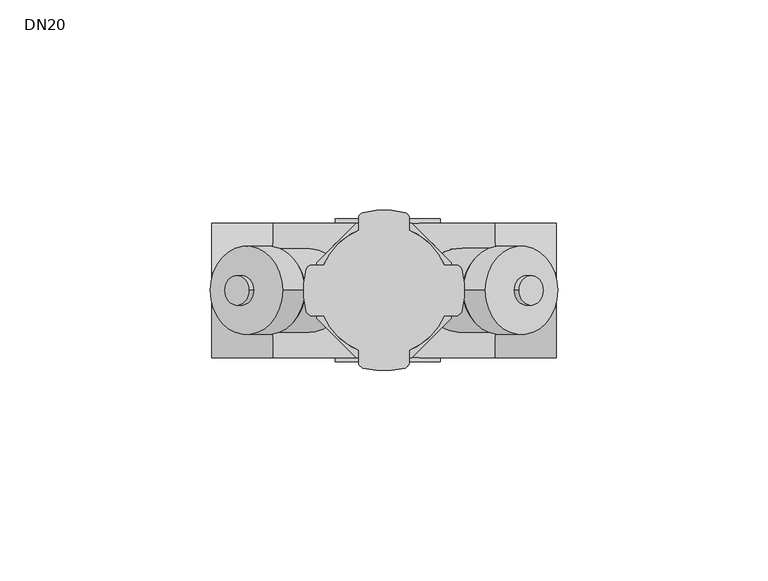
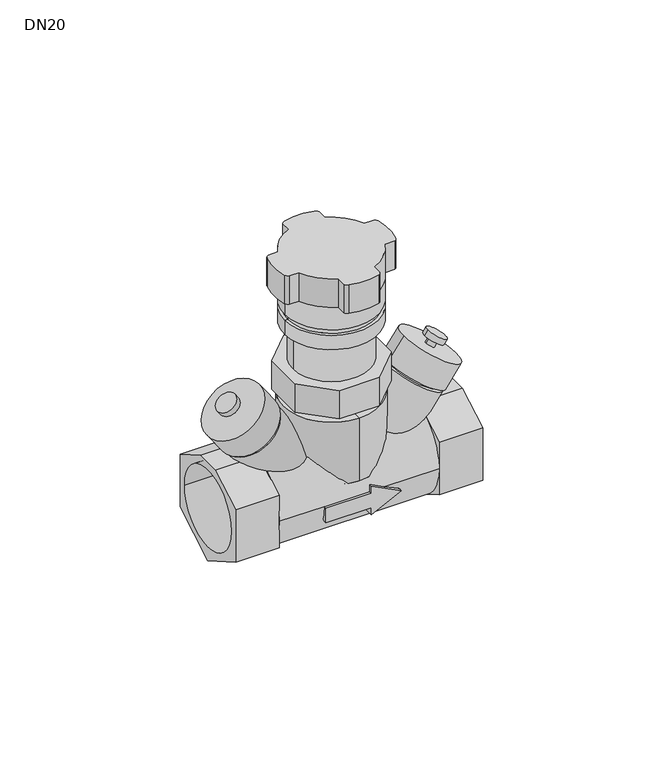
"""IFC4 building model written with IfcOpenShell, lengths in millimetres: valve geometry, 400_56_KOMF_VTZ : DN20."""

from ifc_helpers import new_model, si_unit, point, frame, frame_2d, origin, place, context, project, spatial, polyline, circle_curve, ellipse_curve, trimmed, segment, composite_curve, outline, extrude, source, transform, mapped, element, save
from ifc_brep_helpers import plane_surface, cylinder_surface, revolved_surface, advanced_brep


def dn20_e75ad47f(model_context):
    return source(origin(), model_context, "Body", "SolidModel", [
        advanced_brep(
        [(35.1614142, 0.0, 19.7961177), (18.7784319, 0.0, 31.2676054), (20.4167774, 0.0, 30.1204236), (33.5230687, 0.0, 20.9432996), (23.8246716, 0.0, 3.6055715), (7.4416893, 0.0, 15.0770591), (34.0966531, 0.0, 21.7624631), (20.9903618, 0.0, 30.9395871), (41.3067448, 0.0, 27.7008828), (24.1046544, 0.0, 39.7459162), (31.4768006, 0.0, 34.5838838), (33.9345986, 0.0, 32.8629152), (36.1445527, 0.0, 20.3285084), (18.9424623, 0.0, 32.3735418), (35.0817629, 0.0, 34.5012356), (32.623965, 0.0, 36.2222043), (37.867019, 0.0, 34.9924917), (32.132981, 0.0, 39.0075083), (36.719883, 0.0, 33.3542116), (30.985845, 0.0, 37.3692283)],
        [
            (0, 1, circle_curve(frame((26.969923, 0.0, 25.5318616), z_axis=(0.5735764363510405, 0.0, 0.8191520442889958), x_axis=(-0.8191520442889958, 0.0, 0.5735764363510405)), 9.9999642)),
            (1, 0, circle_curve(frame((26.969923, 0.0, 25.5318616), z_axis=(0.5735764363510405, 0.0, 0.8191520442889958), x_axis=(-0.8191520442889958, 0.0, 0.5735764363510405)), 9.9999642)),
            (2, 3, circle_curve(frame((26.969923, 0.0, 25.5318616), z_axis=(-0.5735764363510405, 0.0, -0.8191520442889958), x_axis=(-0.8191520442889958, 0.0, 0.5735764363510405)), 7.9999137)),
            (3, 2, circle_curve(frame((26.969923, 0.0, 25.5318616), z_axis=(-0.5735764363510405, 0.0, -0.8191520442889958), x_axis=(-0.8191520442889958, 0.0, 0.5735764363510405)), 7.9999137)),
            (4, 5, circle_curve(frame((15.6331805, 0.0, 9.3413153), z_axis=(-0.5735764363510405, 0.0, -0.8191520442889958), x_axis=(-0.8191520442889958, 0.0, 0.5735764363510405)), 9.9999642)),
            (5, 4, circle_curve(frame((15.6331805, 0.0, 9.3413153), z_axis=(-0.5735764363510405, 0.0, -0.8191520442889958), x_axis=(-0.8191520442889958, 0.0, 0.5735764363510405)), 9.9999642)),
            (1, 5),
            (4, 0),
            (6, 7, circle_curve(frame((27.5435075, 0.0, 26.3510251), z_axis=(-0.5735764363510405, 0.0, -0.8191520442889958), x_axis=(-0.8191520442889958, 0.0, 0.5735764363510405)), 7.9999137)),
            (7, 2),
            (3, 6),
            (7, 6, circle_curve(frame((27.5435075, 0.0, 26.3510251), z_axis=(-0.5735764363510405, 0.0, -0.8191520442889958), x_axis=(-0.8191520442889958, 0.0, 0.5735764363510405)), 7.9999137)),
            (8, 9, circle_curve(frame((32.7056996, 0.0, 33.7233995), z_axis=(0.5735764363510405, 0.0, 0.8191520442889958), x_axis=(-0.8191520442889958, 0.0, 0.5735764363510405)), 10.4999374)),
            (9, 8, circle_curve(frame((32.7056996, 0.0, 33.7233995), z_axis=(0.5735764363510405, 0.0, 0.8191520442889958), x_axis=(-0.8191520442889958, 0.0, 0.5735764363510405)), 10.4999374)),
            (10, 11, circle_curve(frame((32.7056996, 0.0, 33.7233995), z_axis=(-0.5735764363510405, 0.0, -0.8191520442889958), x_axis=(-0.8191520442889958, 0.0, 0.5735764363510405)), 1.5002086)),
            (11, 10, circle_curve(frame((32.7056996, 0.0, 33.7233995), z_axis=(-0.5735764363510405, 0.0, -0.8191520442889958), x_axis=(-0.8191520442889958, 0.0, 0.5735764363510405)), 1.5002086)),
            (12, 13, circle_curve(frame((27.5435075, 0.0, 26.3510251), z_axis=(-0.5735764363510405, 0.0, -0.8191520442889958), x_axis=(-0.8191520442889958, 0.0, 0.5735764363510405)), 10.4999374)),
            (13, 12, circle_curve(frame((27.5435075, 0.0, 26.3510251), z_axis=(-0.5735764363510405, 0.0, -0.8191520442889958), x_axis=(-0.8191520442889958, 0.0, 0.5735764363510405)), 10.4999374)),
            (9, 13),
            (12, 8),
            (14, 15, circle_curve(frame((33.852864, 0.0, 35.3617199), z_axis=(-0.5735764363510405, 0.0, -0.8191520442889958), x_axis=(-0.8191520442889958, 0.0, 0.5735764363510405)), 1.5002086)),
            (15, 10),
            (11, 14),
            (15, 14, circle_curve(frame((33.852864, 0.0, 35.3617199), z_axis=(-0.5735764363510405, 0.0, -0.8191520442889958), x_axis=(-0.8191520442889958, 0.0, 0.5735764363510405)), 1.5002086)),
            (16, 17, circle_curve(frame((35.0, 0.0, 37.0), z_axis=(0.5735764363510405, 0.0, 0.8191520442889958), x_axis=(-0.8191520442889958, 0.0, 0.5735764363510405)), 3.4999839)),
            (17, 16, circle_curve(frame((35.0, 0.0, 37.0), z_axis=(0.5735764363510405, 0.0, 0.8191520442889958), x_axis=(-0.8191520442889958, 0.0, 0.5735764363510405)), 3.4999839)),
            (18, 19, circle_curve(frame((33.852864, 0.0, 35.3617199), z_axis=(-0.5735764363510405, 0.0, -0.8191520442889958), x_axis=(-0.8191520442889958, 0.0, 0.5735764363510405)), 3.4999839)),
            (19, 18, circle_curve(frame((33.852864, 0.0, 35.3617199), z_axis=(-0.5735764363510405, 0.0, -0.8191520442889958), x_axis=(-0.8191520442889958, 0.0, 0.5735764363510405)), 3.4999839)),
            (17, 19),
            (18, 16),
        ],
        [
            plane_surface(frame((18.7784319, 0.0, 31.2676054), z_axis=(0.5735764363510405, 0.0, 0.8191520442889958), x_axis=(0.0, 1.0, 0.0))),
            plane_surface(frame((7.4416893, 0.0, 15.0770591), z_axis=(-0.5735764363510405, 0.0, -0.8191520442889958), x_axis=(0.0, -1.0, 0.0))),
            cylinder_surface(frame((15.6331805, 0.0, 9.3413153), z_axis=(0.5735764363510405, 0.0, 0.8191520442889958), x_axis=(-0.8191520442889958, 0.0, 0.5735764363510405)), 9.9999642),
            cylinder_surface(frame((18.939734, 0.0, 14.0635631), z_axis=(0.5735764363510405, 0.0, 0.8191520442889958), x_axis=(-0.8191520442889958, 0.0, 0.5735764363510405)), 7.9999137),
            plane_surface(frame((24.1046544, 0.0, 39.7459162), z_axis=(0.5735764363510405, 0.0, 0.8191520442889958), x_axis=(0.0, 1.0, 0.0))),
            plane_surface(frame((18.9424623, 0.0, 32.3735418), z_axis=(-0.5735764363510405, 0.0, -0.8191520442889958), x_axis=(0.0, -1.0, 0.0))),
            cylinder_surface(frame((27.5435075, 0.0, 26.3510251), z_axis=(0.5735764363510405, 0.0, 0.8191520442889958), x_axis=(-0.8191520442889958, 0.0, 0.5735764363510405)), 10.4999374),
            cylinder_surface(frame((32.7056996, 0.0, 33.7233995), z_axis=(0.5735764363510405, 0.0, 0.8191520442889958), x_axis=(-0.8191520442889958, 0.0, 0.5735764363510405)), 1.5002086),
            plane_surface(frame((32.132981, 0.0, 39.0075083), z_axis=(0.5735764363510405, 0.0, 0.8191520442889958), x_axis=(0.0, 1.0, 0.0))),
            plane_surface(frame((30.985845, 0.0, 37.3692283), z_axis=(-0.5735764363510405, 0.0, -0.8191520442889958), x_axis=(0.0, -1.0, 0.0))),
            cylinder_surface(frame((33.852864, 0.0, 35.3617199), z_axis=(0.5735764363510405, 0.0, 0.8191520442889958), x_axis=(-0.8191520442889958, 0.0, 0.5735764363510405)), 3.4999839),
        ],
        [
            (0, [[1, 2], [3, 4]]),
            (1, [[5, 6]]),
            (2, [[7, -5, 8, -2]]),
            (2, [[-8, -6, -7, -1]]),
            (3, [[9, 10, -4, 11]]),
            (3, [[-3, -10, 12, -11]]),
            (4, [[13, 14], [15, 16]]),
            (5, [[17, 18], [-12, -9]]),
            (6, [[19, -17, 20, -14]]),
            (6, [[-20, -18, -19, -13]]),
            (7, [[21, 22, -16, 23]]),
            (7, [[-15, -22, 24, -23]]),
            (8, [[25, 26]]),
            (9, [[27, 28], [-24, -21]]),
            (10, [[29, -27, 30, -26]]),
            (10, [[-30, -28, -29, -25]]),
        ],
    ),
        advanced_brep(
        [(-35.1614142, 0.0, 19.7961177), (-18.7784319, 0.0, 31.2676054), (-20.4167774, 0.0, 30.1204236), (-33.5230687, 0.0, 20.9432996), (-23.8246716, 0.0, 3.6055715), (-7.4416893, 0.0, 15.0770591), (-34.0966531, 0.0, 21.7624631), (-20.9903618, 0.0, 30.9395871), (-41.3067448, 0.0, 27.7008828), (-24.1046544, 0.0, 39.7459162), (-31.4768006, 0.0, 34.5838838), (-33.9345986, 0.0, 32.8629152), (-36.1445527, 0.0, 20.3285084), (-18.9424623, 0.0, 32.3735418), (-35.0817629, 0.0, 34.5012356), (-32.623965, 0.0, 36.2222043), (-37.867019, 0.0, 34.9924917), (-32.132981, 0.0, 39.0075083), (-36.719883, 0.0, 33.3542116), (-30.985845, 0.0, 37.3692283)],
        [
            (0, 1, circle_curve(frame((-26.969923, 0.0, 25.5318616), z_axis=(-0.5735764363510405, 0.0, 0.8191520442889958), x_axis=(0.8191520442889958, 0.0, 0.5735764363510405)), 9.9999642)),
            (1, 0, circle_curve(frame((-26.969923, 0.0, 25.5318616), z_axis=(-0.5735764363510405, 0.0, 0.8191520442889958), x_axis=(0.8191520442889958, 0.0, 0.5735764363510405)), 9.9999642)),
            (2, 3, circle_curve(frame((-26.969923, 0.0, 25.5318616), z_axis=(0.5735764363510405, 0.0, -0.8191520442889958), x_axis=(0.8191520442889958, 0.0, 0.5735764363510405)), 7.9999137)),
            (3, 2, circle_curve(frame((-26.969923, 0.0, 25.5318616), z_axis=(0.5735764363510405, 0.0, -0.8191520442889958), x_axis=(0.8191520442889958, 0.0, 0.5735764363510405)), 7.9999137)),
            (4, 5, circle_curve(frame((-15.6331805, 0.0, 9.3413153), z_axis=(0.5735764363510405, 0.0, -0.8191520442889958), x_axis=(0.8191520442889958, 0.0, 0.5735764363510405)), 9.9999642)),
            (5, 4, circle_curve(frame((-15.6331805, 0.0, 9.3413153), z_axis=(0.5735764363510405, 0.0, -0.8191520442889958), x_axis=(0.8191520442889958, 0.0, 0.5735764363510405)), 9.9999642)),
            (0, 4),
            (5, 1),
            (6, 3),
            (2, 7),
            (7, 6, circle_curve(frame((-27.5435075, 0.0, 26.3510251), z_axis=(0.5735764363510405, 0.0, -0.8191520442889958), x_axis=(0.8191520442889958, 0.0, 0.5735764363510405)), 7.9999137)),
            (6, 7, circle_curve(frame((-27.5435075, 0.0, 26.3510251), z_axis=(0.5735764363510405, 0.0, -0.8191520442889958), x_axis=(0.8191520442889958, 0.0, 0.5735764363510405)), 7.9999137)),
            (8, 9, circle_curve(frame((-32.7056996, 0.0, 33.7233995), z_axis=(-0.5735764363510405, 0.0, 0.8191520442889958), x_axis=(0.8191520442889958, 0.0, 0.5735764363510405)), 10.4999374)),
            (9, 8, circle_curve(frame((-32.7056996, 0.0, 33.7233995), z_axis=(-0.5735764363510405, 0.0, 0.8191520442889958), x_axis=(0.8191520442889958, 0.0, 0.5735764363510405)), 10.4999374)),
            (10, 11, circle_curve(frame((-32.7056996, 0.0, 33.7233995), z_axis=(0.5735764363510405, 0.0, -0.8191520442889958), x_axis=(0.8191520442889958, 0.0, 0.5735764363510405)), 1.5002086)),
            (11, 10, circle_curve(frame((-32.7056996, 0.0, 33.7233995), z_axis=(0.5735764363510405, 0.0, -0.8191520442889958), x_axis=(0.8191520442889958, 0.0, 0.5735764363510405)), 1.5002086)),
            (12, 13, circle_curve(frame((-27.5435075, 0.0, 26.3510251), z_axis=(0.5735764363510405, 0.0, -0.8191520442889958), x_axis=(0.8191520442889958, 0.0, 0.5735764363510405)), 10.4999374)),
            (13, 12, circle_curve(frame((-27.5435075, 0.0, 26.3510251), z_axis=(0.5735764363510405, 0.0, -0.8191520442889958), x_axis=(0.8191520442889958, 0.0, 0.5735764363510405)), 10.4999374)),
            (8, 12),
            (13, 9),
            (14, 11),
            (10, 15),
            (15, 14, circle_curve(frame((-33.852864, 0.0, 35.3617199), z_axis=(0.5735764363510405, 0.0, -0.8191520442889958), x_axis=(0.8191520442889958, 0.0, 0.5735764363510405)), 1.5002086)),
            (14, 15, circle_curve(frame((-33.852864, 0.0, 35.3617199), z_axis=(0.5735764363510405, 0.0, -0.8191520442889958), x_axis=(0.8191520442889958, 0.0, 0.5735764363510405)), 1.5002086)),
            (16, 17, circle_curve(frame((-35.0, 0.0, 37.0), z_axis=(-0.5735764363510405, 0.0, 0.8191520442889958), x_axis=(0.8191520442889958, 0.0, 0.5735764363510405)), 3.4999839)),
            (17, 16, circle_curve(frame((-35.0, 0.0, 37.0), z_axis=(-0.5735764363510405, 0.0, 0.8191520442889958), x_axis=(0.8191520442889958, 0.0, 0.5735764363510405)), 3.4999839)),
            (18, 19, circle_curve(frame((-33.852864, 0.0, 35.3617199), z_axis=(0.5735764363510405, 0.0, -0.8191520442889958), x_axis=(0.8191520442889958, 0.0, 0.5735764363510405)), 3.4999839)),
            (19, 18, circle_curve(frame((-33.852864, 0.0, 35.3617199), z_axis=(0.5735764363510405, 0.0, -0.8191520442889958), x_axis=(0.8191520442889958, 0.0, 0.5735764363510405)), 3.4999839)),
            (16, 18),
            (19, 17),
        ],
        [
            plane_surface(frame((-18.7784319, 0.0, 31.2676054), z_axis=(-0.5735764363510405, 0.0, 0.8191520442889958), x_axis=(0.0, 1.0, 0.0))),
            plane_surface(frame((-7.4416893, 0.0, 15.0770591), z_axis=(0.5735764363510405, 0.0, -0.8191520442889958), x_axis=(0.0, -1.0, 0.0))),
            cylinder_surface(frame((-15.6331805, 0.0, 9.3413153), z_axis=(-0.5735764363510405, 0.0, 0.8191520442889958), x_axis=(0.8191520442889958, 0.0, 0.5735764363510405)), 9.9999642),
            cylinder_surface(frame((-18.939734, 0.0, 14.0635631), z_axis=(-0.5735764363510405, 0.0, 0.8191520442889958), x_axis=(0.8191520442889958, 0.0, 0.5735764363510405)), 7.9999137),
            plane_surface(frame((-24.1046544, 0.0, 39.7459162), z_axis=(-0.5735764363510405, 0.0, 0.8191520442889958), x_axis=(0.0, 1.0, 0.0))),
            plane_surface(frame((-18.9424623, 0.0, 32.3735418), z_axis=(0.5735764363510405, 0.0, -0.8191520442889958), x_axis=(0.0, -1.0, 0.0))),
            cylinder_surface(frame((-27.5435075, 0.0, 26.3510251), z_axis=(-0.5735764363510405, 0.0, 0.8191520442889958), x_axis=(0.8191520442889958, 0.0, 0.5735764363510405)), 10.4999374),
            cylinder_surface(frame((-32.7056996, 0.0, 33.7233995), z_axis=(-0.5735764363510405, 0.0, 0.8191520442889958), x_axis=(0.8191520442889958, 0.0, 0.5735764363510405)), 1.5002086),
            plane_surface(frame((-32.132981, 0.0, 39.0075083), z_axis=(-0.5735764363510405, 0.0, 0.8191520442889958), x_axis=(0.0, 1.0, 0.0))),
            plane_surface(frame((-30.985845, 0.0, 37.3692283), z_axis=(0.5735764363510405, 0.0, -0.8191520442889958), x_axis=(0.0, -1.0, 0.0))),
            cylinder_surface(frame((-33.852864, 0.0, 35.3617199), z_axis=(-0.5735764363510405, 0.0, 0.8191520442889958), x_axis=(0.8191520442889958, 0.0, 0.5735764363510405)), 3.4999839),
        ],
        [
            (0, [[1, 2], [3, 4]]),
            (1, [[5, 6]]),
            (2, [[-1, 7, -6, 8]]),
            (2, [[-2, -8, -5, -7]]),
            (3, [[9, -3, 10, 11]]),
            (3, [[-9, 12, -10, -4]]),
            (4, [[13, 14], [15, 16]]),
            (5, [[17, 18], [-11, -12]]),
            (6, [[-13, 19, -18, 20]]),
            (6, [[-14, -20, -17, -19]]),
            (7, [[21, -15, 22, 23]]),
            (7, [[-21, 24, -22, -16]]),
            (8, [[25, 26]]),
            (9, [[27, 28], [-23, -24]]),
            (10, [[-25, 29, -28, 30]]),
            (10, [[-26, -30, -27, -29]]),
        ],
    ),
        advanced_brep(
        [(26.5, -15.9999998, 1.9999999), (26.5, 16.0000002, 1.9999999), (-26.5, -15.9999998, 1.9999999), (-26.5, 16.0000002, 1.9999999), (8.3504735, -15.9999998, 1.9999999), (13.3504733, -15.8034804, -0.5), (3.3504733, -14.1332939, -5.5), (3.3504733, -15.198684, -3.0), (-11.6495267, -15.198684, -3.0), (-11.6495267, -15.9999998, 1.9999999), (-11.6495267, 16.0000002, 1.9999999), (-11.6495267, 15.1986844, -3.0), (3.3504733, 15.1986844, -3.0), (3.3504733, 14.1332943, -5.5), (13.3504733, 15.8034809, -0.5), (8.3504735, 16.0000002, 1.9999999), (3.3504733, 15.8034808, 4.5), (3.3504733, 16.0000002, 1.9999999), (3.3504733, -15.9999998, 2.0), (3.3504733, -15.8034804, 4.5), (3.3504733, -17.0, 2.0), (-11.6495267, -17.0, 2.0), (-11.6495267, -17.0, -3.0), (3.3504733, -17.0, -3.0), (3.3504733, -17.0, -5.5), (13.3504733, -17.0, -0.5), (3.3504733, -17.0, 4.5), (3.3504733, 17.0, 2.0), (3.3504733, 17.0, 4.5), (13.3504733, 17.0, -0.5), (3.3504733, 17.0, -5.5), (3.3504733, 17.0, -3.0), (-11.6495267, 17.0, -3.0), (-11.6495267, 17.0, 2.0)],
        [
            (0, 1, circle_curve(frame((26.5, 2e-07, 1.9999999), z_axis=(1.0, 0.0, 0.0), x_axis=(0.0, 1.0, 0.0)), 16.0)),
            (1, 0, circle_curve(frame((26.5, 2e-07, 1.9999999), z_axis=(1.0, 0.0, 0.0), x_axis=(0.0, 1.0, 0.0)), 16.0)),
            (2, 3, circle_curve(frame((-26.5, 2e-07, 1.9999999), z_axis=(-1.0, 0.0, 0.0), x_axis=(0.0, 1.0, 0.0)), 16.0)),
            (3, 2, circle_curve(frame((-26.5, 2e-07, 1.9999999), z_axis=(-1.0, 0.0, 0.0), x_axis=(0.0, 1.0, 0.0)), 16.0)),
            (0, 4),
            (4, 5, ellipse_curve(frame((8.3504735, 2e-07, 1.9999999), z_axis=(0.44721359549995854, 0.0, 0.8944271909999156), x_axis=(0.8944271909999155, 0.0, -0.4472135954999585)), 35.7770876, 16.0)),
            (5, 6, ellipse_curve(frame((18.3504731, 2e-07, 1.9999999), z_axis=(0.4472135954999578, 0.0, -0.894427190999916), x_axis=(0.894427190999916, 0.0, 0.44721359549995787)), 35.7770876, 16.0)),
            (6, 7, circle_curve(frame((3.3504733, 2e-07, 1.9999999), z_axis=(-1.0, 0.0, 0.0), x_axis=(0.0, 1.0, 0.0)), 16.0)),
            (7, 8),
            (8, 9, circle_curve(frame((-11.6495267, 2e-07, 1.9999999), z_axis=(-1.0, 0.0, 0.0), x_axis=(0.0, 1.0, 0.0)), 16.0)),
            (9, 2),
            (3, 10),
            (10, 11, circle_curve(frame((-11.6495267, 2e-07, 1.9999999), z_axis=(-1.0, 0.0, 0.0), x_axis=(0.0, 1.0, 0.0)), 16.0)),
            (11, 12),
            (12, 13, circle_curve(frame((3.3504733, 2e-07, 1.9999999), z_axis=(-1.0, 0.0, 0.0), x_axis=(0.0, 1.0, 0.0)), 16.0)),
            (13, 14, ellipse_curve(frame((18.3504731, 2e-07, 1.9999999), z_axis=(0.4472135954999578, 0.0, -0.894427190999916), x_axis=(0.894427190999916, 0.0, 0.44721359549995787)), 35.7770876, 16.0)),
            (14, 15, ellipse_curve(frame((8.3504735, 2e-07, 1.9999999), z_axis=(0.44721359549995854, 0.0, 0.8944271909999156), x_axis=(0.8944271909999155, 0.0, -0.4472135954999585)), 35.7770876, 16.0)),
            (15, 1),
            (15, 16, ellipse_curve(frame((8.3504735, 2e-07, 1.9999999), z_axis=(0.44721359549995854, 0.0, 0.8944271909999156), x_axis=(0.8944271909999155, 0.0, -0.4472135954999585)), 35.7770876, 16.0)),
            (16, 17, circle_curve(frame((3.3504733, 2e-07, 1.9999999), z_axis=(-1.0, 0.0, 0.0), x_axis=(0.0, 1.0, 0.0)), 16.0)),
            (17, 10),
            (9, 18),
            (18, 19, circle_curve(frame((3.3504733, 2e-07, 1.9999999), z_axis=(-1.0, 0.0, 0.0), x_axis=(0.0, 1.0, 0.0)), 16.0)),
            (19, 4, ellipse_curve(frame((8.3504735, 2e-07, 1.9999999), z_axis=(0.44721359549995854, 0.0, 0.8944271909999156), x_axis=(0.8944271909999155, 0.0, -0.4472135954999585)), 35.7770876, 16.0)),
            (20, 21),
            (21, 22),
            (22, 23),
            (23, 24),
            (24, 25),
            (25, 26),
            (26, 20),
            (27, 28),
            (28, 29),
            (29, 30),
            (30, 31),
            (31, 32),
            (32, 33),
            (33, 27),
            (20, 18),
            (9, 21),
            (33, 10),
            (17, 27),
            (8, 22),
            (32, 11),
            (7, 23),
            (31, 12),
            (6, 24),
            (30, 13),
            (5, 25),
            (29, 14),
            (19, 26),
            (28, 16),
        ],
        [
            plane_surface(frame((26.5, 16.0000002, 1.9999999), z_axis=(1.0, 0.0, 0.0), x_axis=(0.0, 0.0, 1.0))),
            plane_surface(frame((-26.5, 16.0000002, 1.9999999), z_axis=(-1.0, 0.0, 0.0), x_axis=(0.0, 0.0, -1.0))),
            cylinder_surface(frame((-26.5, 2e-07, 1.9999999), z_axis=(1.0, 0.0, 0.0), x_axis=(0.0, 1.0, 0.0)), 16.0),
            plane_surface(frame((-11.6495267, -17.0, 2.0), z_axis=(0.0, -1.0, 0.0), x_axis=(-1.0, 0.0, 0.0))),
            plane_surface(frame((-11.6495267, 17.0, 2.0), z_axis=(0.0, 1.0, 0.0), x_axis=(1.0, 0.0, 0.0))),
            plane_surface(frame((3.3504733, -17.0, 2.0), z_axis=(0.0, 0.0, 1.0), x_axis=(0.0, 1.0, 0.0))),
            plane_surface(frame((-11.6495267, -17.0, 2.0), z_axis=(-1.0, 0.0, 0.0), x_axis=(0.0, 1.0, 0.0))),
            plane_surface(frame((-11.6495267, -17.0, -3.0), z_axis=(0.0, 0.0, -1.0), x_axis=(0.0, 1.0, 0.0))),
            plane_surface(frame((3.3504733, -17.0, -3.0), z_axis=(-1.0, 0.0, 0.0), x_axis=(0.0, 1.0, 0.0))),
            plane_surface(frame((3.3504733, -17.0, -5.5), z_axis=(0.4472135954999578, 0.0, -0.894427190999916), x_axis=(0.0, 1.0, 0.0))),
            plane_surface(frame((13.3504733, -17.0, -0.5), z_axis=(0.44721359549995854, 0.0, 0.8944271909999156), x_axis=(0.0, 1.0, 0.0))),
            plane_surface(frame((3.3504733, -17.0, 4.5), z_axis=(-1.0, 0.0, 0.0), x_axis=(0.0, 1.0, 0.0))),
        ],
        [
            (0, [[1, 2]]),
            (1, [[3, 4]]),
            (2, [[-1, 5, 6, 7, 8, 9, 10, 11, -4, 12, 13, 14, 15, 16, 17, 18]]),
            (2, [[-2, -18, 19, 20, 21, -12, -3, -11, 22, 23, 24, -5]]),
            (3, [[25, 26, 27, 28, 29, 30, 31]]),
            (4, [[32, 33, 34, 35, 36, 37, 38]]),
            (5, [[-25, 39, -22, 40]]),
            (5, [[-38, 41, -21, 42]]),
            (6, [[-26, -40, -10, 43]]),
            (6, [[-37, 44, -13, -41]]),
            (7, [[-27, -43, -9, 45]]),
            (7, [[-36, 46, -14, -44]]),
            (8, [[-28, -45, -8, 47]]),
            (8, [[-35, 48, -15, -46]]),
            (9, [[-29, -47, -7, 49]]),
            (9, [[-34, 50, -16, -48]]),
            (10, [[-30, -49, -6, -24, 51]]),
            (10, [[-33, 52, -19, -17, -50]]),
            (11, [[-31, -51, -23, -39]]),
            (11, [[-32, -42, -20, -52]]),
        ],
    ),
        extrude(outline(polyline([(16.0, 11.2376038), (16.0, -7.2376043), (-4e-07, -16.4752089), (-16.0, -7.2376048), (-16.0, 11.2376043), (-4.2871871, 18.0), (4.2871863, 18.0), (16.0, 11.2376038)]), holes=[composite_curve([segment(trimmed(circle_curve(frame_2d((0.0, 2.0)), 13.45), [point((-13.45, 2.0))], [point((13.45, 2.0))], True, "CARTESIAN"), True, "CONTINUOUS"), segment(trimmed(circle_curve(frame_2d((0.0, 2.0)), 13.45), [point((13.45, 2.0))], [point((-13.45, 2.0))], True, "CARTESIAN"), True, "CONTINUOUS")], self_intersect=False)]), frame((26.5, 0.0, 0.0), z_axis=(1.0, 0.0, 0.0), x_axis=(0.0, 1.0, 0.0)), (0.0, 0.0, 1.0), 14.5),
        extrude(outline(polyline([(16.0, 11.2376038), (16.0, -7.2376043), (-4e-07, -16.4752089), (-16.0, -7.2376048), (-16.0, 11.2376043), (-4.2871871, 18.0), (4.2871863, 18.0), (16.0, 11.2376038)]), holes=[composite_curve([segment(trimmed(circle_curve(frame_2d((0.0, 2.0)), 13.45), [point((-13.45, 2.0))], [point((13.45, 2.0))], True, "CARTESIAN"), True, "CONTINUOUS"), segment(trimmed(circle_curve(frame_2d((0.0, 2.0)), 13.45), [point((13.45, 2.0))], [point((-13.45, 2.0))], True, "CARTESIAN"), True, "CONTINUOUS")], self_intersect=False)]), frame((-41.0, 0.0, 0.0), z_axis=(1.0, 0.0, 0.0), x_axis=(0.0, 1.0, 0.0)), (0.0, 0.0, 1.0), 14.5),
        advanced_brep(
        [(0.0, -16.0, 29.0), (0.0, 16.0, 29.0), (0.0, 16.0, 7.0000003), (0.0, -16.0, 7.0000003), (0.0, -12.0000003, 29.0), (0.0, 12.0000003, 29.0), (0.0, -12.0000003, 37.0), (0.0, 12.0000003, 37.0), (0.0, 0.0, 37.0), (0.0, -13.0000003, 4.0), (0.0, 13.0000003, 4.0), (0.0, 0.0, 4.0)],
        [
            (0, 1, circle_curve(frame((0.0, 0.0, 29.0), z_axis=(0.0, 0.0, -1.0), x_axis=(0.0, 1.0, 0.0)), 16.0)),
            (1, 2),
            (2, 3, circle_curve(frame((0.0, 0.0, 7.0000003), z_axis=(0.0, 0.0, 1.0), x_axis=(0.0, 1.0, 0.0)), 16.0)),
            (3, 0),
            (1, 0, circle_curve(frame((0.0, 0.0, 29.0), z_axis=(0.0, 0.0, -1.0), x_axis=(0.0, 1.0, 0.0)), 16.0)),
            (3, 2, circle_curve(frame((0.0, 0.0, 7.0000003), z_axis=(0.0, 0.0, 1.0), x_axis=(0.0, 1.0, 0.0)), 16.0)),
            (4, 5, circle_curve(frame((0.0, 0.0, 29.0), z_axis=(0.0, 0.0, -1.0), x_axis=(0.0, 1.0, 0.0)), 12.0000003)),
            (5, 1),
            (0, 4),
            (5, 4, circle_curve(frame((0.0, 0.0, 29.0), z_axis=(0.0, 0.0, -1.0), x_axis=(0.0, 1.0, 0.0)), 12.0000003)),
            (6, 7, circle_curve(frame((0.0, 0.0, 37.0), z_axis=(0.0, 0.0, -1.0), x_axis=(0.0, 1.0, 0.0)), 12.0000003)),
            (7, 5),
            (4, 6),
            (7, 6, circle_curve(frame((0.0, 0.0, 37.0), z_axis=(0.0, 0.0, -1.0), x_axis=(0.0, 1.0, 0.0)), 12.0000003)),
            (8, 7),
            (6, 8),
            (9, 10, circle_curve(frame((0.0, 0.0, 4.0), z_axis=(0.0, 0.0, -1.0), x_axis=(0.0, 1.0, 0.0)), 13.0000003)),
            (10, 11),
            (11, 9),
            (10, 9, circle_curve(frame((0.0, 0.0, 4.0), z_axis=(0.0, 0.0, -1.0), x_axis=(0.0, 1.0, 0.0)), 13.0000003)),
            (2, 10),
            (9, 3),
        ],
        [
            cylinder_surface(frame((0.0, 0.0, 1442.3704342), z_axis=(0.0, 0.0, 1.0), x_axis=(0.0, 1.0, 0.0)), 16.0),
            plane_surface(frame((0.0, 0.0, 29.0), z_axis=(0.0, 0.0, 1.0), x_axis=(0.0, 1.0, 0.0))),
            cylinder_surface(frame((0.0, 0.0, 1442.3704342), z_axis=(0.0, 0.0, 1.0), x_axis=(0.0, 1.0, 0.0)), 12.0000003),
            plane_surface(frame((0.0, 0.0, 37.0), z_axis=(0.0, 0.0, 1.0), x_axis=(0.0, 1.0, 0.0))),
            plane_surface(frame((0.0, 0.0, 4.0), z_axis=(0.0, 0.0, -1.0), x_axis=(0.0, 1.0, 0.0))),
            revolved_surface(polyline([(0.0, 13.0000003, 4.0), (0.0, 16.0, 7.0000003)]), (0.0, 0.0, 1442.3704342), (0.0, 0.0, 1.0)),
        ],
        [
            (0, [[1, 2, 3, 4]]),
            (0, [[5, -4, 6, -2]]),
            (1, [[7, 8, -1, 9]]),
            (1, [[10, -9, -5, -8]]),
            (2, [[11, 12, -7, 13]]),
            (2, [[14, -13, -10, -12]]),
            (3, [[15, -11, 16]]),
            (3, [[-16, -14, -15]]),
            (4, [[17, 18, 19]]),
            (4, [[20, -19, -18]]),
            (5, [[-3, 21, -17, 22]]),
            (5, [[-6, -22, -20, -21]]),
        ],
    ),
        extrude(outline(composite_curve([segment(polyline([(-5.999999, 14.2916074), (-5.999999, 17.5000013)]), True, "CONTINUOUS"), segment(trimmed(circle_curve(frame_2d((-4.3362017, 16.836203)), 1.7913262), [point((-5.999999, 17.5000013))], [point((-5.0, 18.5000003))], False, "CARTESIAN"), True, "CONTINUOUS"), segment(trimmed(circle_curve(frame_2d((0.0, -1.7021075)), 20.8116592), [point((-5.0, 18.5000003))], [point((5.0, 18.5000003))], False, "CARTESIAN"), True, "CONTINUOUS"), segment(trimmed(circle_curve(frame_2d((4.177133, 16.6771324)), 1.9999894), [point((5.0, 18.5000003))], [point((6.000001, 17.4999994))], False, "CARTESIAN"), True, "CONTINUOUS"), segment(polyline([(6.000001, 17.4999994), (6.000001, 14.2916074)]), True, "CONTINUOUS"), segment(trimmed(circle_curve(frame_2d((1e-06, 1e-06)), 15.5000005), [point((6.000001, 14.2916074))], [point((14.2916074, 6.000001))], False, "CARTESIAN"), True, "CONTINUOUS"), segment(polyline([(14.2916074, 6.000001), (17.5, 6.000001)]), True, "CONTINUOUS"), segment(trimmed(circle_curve(frame_2d((16.6771331, 4.177133)), 1.9999894), [point((17.5, 6.000001))], [point((18.500001, 5.0))], False, "CARTESIAN"), True, "CONTINUOUS"), segment(trimmed(circle_curve(frame_2d((-1.7021075, 0.0)), 20.8116599), [point((18.500001, 5.0))], [point((18.500001, -5.0))], False, "CARTESIAN"), True, "CONTINUOUS"), segment(trimmed(circle_curve(frame_2d((16.8362037, -4.3362017)), 1.7913262), [point((18.500001, -5.0))], [point((17.500002, -5.999999))], False, "CARTESIAN"), True, "CONTINUOUS"), segment(polyline([(17.500002, -5.999999), (14.2916074, -5.999999)]), True, "CONTINUOUS"), segment(trimmed(circle_curve(frame_2d((1e-06, 1e-06)), 15.5000005), [point((14.2916074, -5.999999))], [point((6.000001, -14.2916054))], False, "CARTESIAN"), True, "CONTINUOUS"), segment(polyline([(6.000001, -14.2916054), (6.000001, -17.4999974)]), True, "CONTINUOUS"), segment(trimmed(circle_curve(frame_2d((4.177133, -16.6771304)), 1.9999894), [point((6.000001, -17.4999974))], [point((5.0, -18.4999984))], False, "CARTESIAN"), True, "CONTINUOUS"), segment(trimmed(circle_curve(frame_2d((0.0, 1.7021094)), 20.8116592), [point((5.0, -18.4999984))], [point((-5.0, -18.4999984))], False, "CARTESIAN"), True, "CONTINUOUS"), segment(trimmed(circle_curve(frame_2d((-4.3362017, -16.8362011)), 1.7913262), [point((-5.0, -18.4999984))], [point((-5.999999, -17.4999994))], False, "CARTESIAN"), True, "CONTINUOUS"), segment(polyline([(-5.999999, -17.4999994), (-5.999999, -14.2916054)]), True, "CONTINUOUS"), segment(trimmed(circle_curve(frame_2d((1e-06, 1e-06)), 15.5000005), [point((-5.999999, -14.2916054))], [point((-14.2916054, -5.999999))], False, "CARTESIAN"), True, "CONTINUOUS"), segment(polyline([(-14.2916054, -5.999999), (-17.5, -5.999999)]), True, "CONTINUOUS"), segment(trimmed(circle_curve(frame_2d((-16.8362017, -4.3362017)), 1.7913262), [point((-17.5, -5.999999))], [point((-18.499999, -5.0))], False, "CARTESIAN"), True, "CONTINUOUS"), segment(trimmed(circle_curve(frame_2d((1.7021094, 0.0)), 20.8116599), [point((-18.499999, -5.0))], [point((-18.499999, 5.0))], False, "CARTESIAN"), True, "CONTINUOUS"), segment(trimmed(circle_curve(frame_2d((-16.6771311, 4.177133)), 1.9999894), [point((-18.499999, 5.0))], [point((-17.4999981, 6.000001))], False, "CARTESIAN"), True, "CONTINUOUS"), segment(polyline([(-17.4999981, 6.000001), (-14.2916054, 6.000001)]), True, "CONTINUOUS"), segment(trimmed(circle_curve(frame_2d((1e-06, 1e-06)), 15.5000005), [point((-14.2916054, 6.000001))], [point((-5.999999, 14.2916074))], False, "CARTESIAN"), True, "CONTINUOUS")], self_intersect=False)), frame((0.0, 0.0, 68.9999993), z_axis=(0.0, 0.0, 1.0), x_axis=(1.0, 0.0, 0.0)), (0.0, 0.0, 1.0), 10.0000028),
        advanced_brep(
        [(15.5000005, 0.0, 61.1249976), (-15.5000005, 0.0, 61.1249976), (-15.5000005, 0.0, 68.9999993), (15.5000005, 0.0, 68.9999993), (14.4686689, 0.0, 61.1249976), (-14.4686689, 0.0, 61.1249976), (14.4686689, 0.0, 59.1250016), (-14.4686689, 0.0, 59.1250016), (15.5000005, 0.0, 59.1250016), (-15.5000005, 0.0, 59.1250016), (15.5000005, 0.0, 54.1401), (-15.5000005, 0.0, 54.1401), (12.7500002, 0.0, 54.1401), (-12.7500002, 0.0, 54.1401), (12.7500002, 0.0, 41.0000005), (-12.7500002, 0.0, 41.0000005), (0.0, 0.0, 41.0000005), (0.0, 0.0, 68.9999993)],
        [
            (0, 1, circle_curve(frame((0.0, 0.0, 61.1249976), z_axis=(0.0, 0.0, 1.0), x_axis=(-1.0, 0.0, 0.0)), 15.5000005)),
            (1, 2),
            (2, 3, circle_curve(frame((0.0, 0.0, 68.9999993), z_axis=(0.0, 0.0, -1.0), x_axis=(-1.0, 0.0, 0.0)), 15.5000005)),
            (3, 0),
            (1, 0, circle_curve(frame((0.0, 0.0, 61.1249976), z_axis=(0.0, 0.0, 1.0), x_axis=(-1.0, 0.0, 0.0)), 15.5000005)),
            (3, 2, circle_curve(frame((0.0, 0.0, 68.9999993), z_axis=(0.0, 0.0, -1.0), x_axis=(-1.0, 0.0, 0.0)), 15.5000005)),
            (4, 5, circle_curve(frame((0.0, 0.0, 61.1249976), z_axis=(0.0, 0.0, 1.0), x_axis=(-1.0, 0.0, 0.0)), 14.4686689)),
            (5, 1),
            (0, 4),
            (5, 4, circle_curve(frame((0.0, 0.0, 61.1249976), z_axis=(0.0, 0.0, 1.0), x_axis=(-1.0, 0.0, 0.0)), 14.4686689)),
            (6, 7, circle_curve(frame((0.0, 0.0, 59.1250016), z_axis=(0.0, 0.0, 1.0), x_axis=(-1.0, 0.0, 0.0)), 14.4686689)),
            (7, 5),
            (4, 6),
            (7, 6, circle_curve(frame((0.0, 0.0, 59.1250016), z_axis=(0.0, 0.0, 1.0), x_axis=(-1.0, 0.0, 0.0)), 14.4686689)),
            (8, 9, circle_curve(frame((0.0, 0.0, 59.1250016), z_axis=(0.0, 0.0, 1.0), x_axis=(-1.0, 0.0, 0.0)), 15.5000005)),
            (9, 7),
            (6, 8),
            (9, 8, circle_curve(frame((0.0, 0.0, 59.1250016), z_axis=(0.0, 0.0, 1.0), x_axis=(-1.0, 0.0, 0.0)), 15.5000005)),
            (10, 11, circle_curve(frame((0.0, 0.0, 54.1401), z_axis=(0.0, 0.0, 1.0), x_axis=(-1.0, 0.0, 0.0)), 15.5000005)),
            (11, 9),
            (8, 10),
            (11, 10, circle_curve(frame((0.0, 0.0, 54.1401), z_axis=(0.0, 0.0, 1.0), x_axis=(-1.0, 0.0, 0.0)), 15.5000005)),
            (12, 13, circle_curve(frame((0.0, 0.0, 54.1401), z_axis=(0.0, 0.0, 1.0), x_axis=(-1.0, 0.0, 0.0)), 12.7500002)),
            (13, 11),
            (10, 12),
            (13, 12, circle_curve(frame((0.0, 0.0, 54.1401), z_axis=(0.0, 0.0, 1.0), x_axis=(-1.0, 0.0, 0.0)), 12.7500002)),
            (14, 15, circle_curve(frame((0.0, 0.0, 41.0000005), z_axis=(0.0, 0.0, 1.0), x_axis=(-1.0, 0.0, 0.0)), 12.7500002)),
            (15, 13),
            (12, 14),
            (15, 14, circle_curve(frame((0.0, 0.0, 41.0000005), z_axis=(0.0, 0.0, 1.0), x_axis=(-1.0, 0.0, 0.0)), 12.7500002)),
            (16, 15),
            (14, 16),
            (2, 17),
            (17, 3),
        ],
        [
            cylinder_surface(frame((0.0, 0.0, 39.1250005), z_axis=(0.0, 0.0, -1.0), x_axis=(-1.0, 0.0, 0.0)), 15.5000005),
            plane_surface(frame((0.0, 0.0, 61.1249976), z_axis=(0.0, 0.0, -1.0), x_axis=(-1.0, 0.0, 0.0))),
            cylinder_surface(frame((0.0, 0.0, 39.1250005), z_axis=(0.0, 0.0, -1.0), x_axis=(-1.0, 0.0, 0.0)), 14.4686689),
            plane_surface(frame((0.0, 0.0, 59.1250016), z_axis=(0.0, 0.0, 1.0), x_axis=(-1.0, 0.0, 0.0))),
            plane_surface(frame((0.0, 0.0, 54.1401), z_axis=(0.0, 0.0, -1.0), x_axis=(-1.0, 0.0, 0.0))),
            cylinder_surface(frame((0.0, 0.0, 39.1250005), z_axis=(0.0, 0.0, -1.0), x_axis=(-1.0, 0.0, 0.0)), 12.7500002),
            plane_surface(frame((0.0, 0.0, 41.0000005), z_axis=(0.0, 0.0, -1.0), x_axis=(-1.0, 0.0, 0.0))),
            plane_surface(frame((0.0, 0.0, 68.9999993), z_axis=(0.0, 0.0, 1.0), x_axis=(-1.0, 0.0, 0.0))),
        ],
        [
            (0, [[1, 2, 3, 4]]),
            (0, [[5, -4, 6, -2]]),
            (1, [[7, 8, -1, 9]]),
            (1, [[10, -9, -5, -8]]),
            (2, [[11, 12, -7, 13]]),
            (2, [[14, -13, -10, -12]]),
            (3, [[15, 16, -11, 17]]),
            (3, [[18, -17, -14, -16]]),
            (0, [[19, 20, -15, 21]]),
            (0, [[22, -21, -18, -20]]),
            (4, [[23, 24, -19, 25]]),
            (4, [[26, -25, -22, -24]]),
            (5, [[27, 28, -23, 29]]),
            (5, [[30, -29, -26, -28]]),
            (6, [[31, -27, 32]]),
            (6, [[-32, -30, -31]]),
            (7, [[-3, 33, 34]]),
            (7, [[-6, -34, -33]]),
        ],
    ),
        extrude(outline(polyline([(16.0000006, 6.6274173), (16.0000006, -6.6274173), (6.6274173, -15.9999999), (-6.6274173, -15.9999999), (-16.0000006, -6.6274173), (-16.0000006, 6.6274173), (-6.6274173, 15.9999999), (6.6274173, 15.9999999), (16.0000006, 6.6274173)])), frame((0.0, 0.0, 31.0), z_axis=(0.0, 0.0, 1.0), x_axis=(1.0, 0.0, 0.0)), (0.0, 0.0, 1.0), 10.0000005),
    ])


if __name__ == "__main__":
    model = new_model("IFC4")
    model_context = context("Model", 3, world=origin())
    ifc_project = project(units=[si_unit("LENGTHUNIT", "METRE", prefix="MILLI")], contexts=[model_context])
    site = spatial("IfcSite", under=ifc_project)
    building = spatial("IfcBuilding", under=site)
    placement = place(None, origin())
    dn20_shape = dn20_e75ad47f(model_context)
    element("IfcValve", 1, ObjectType="400_56_KOMF_VTZ : DN20", at=placement, inside=building, context=model_context, shape_type="MappedRepresentation", body=[
        mapped(dn20_shape, transform((0.0, 0.0, 0.0), x_axis=(1.0, 0.0, 0.0), y_axis=(0.0, 1.0, 0.0), z_axis=(0.0, 0.0, 1.0))),
    ])
    save(model, "model.ifc")
